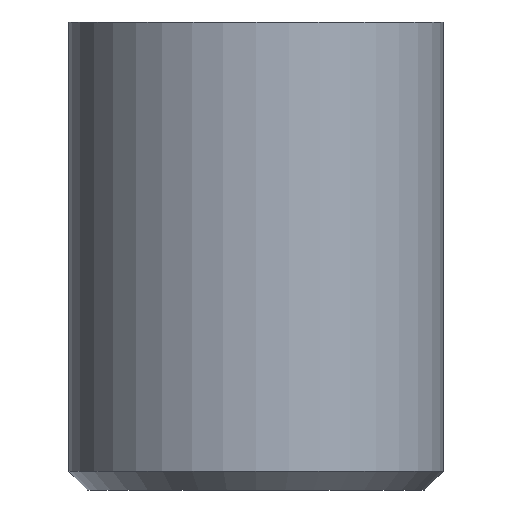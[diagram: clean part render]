
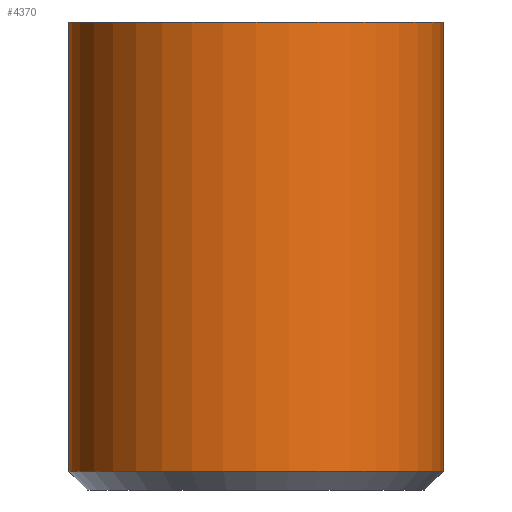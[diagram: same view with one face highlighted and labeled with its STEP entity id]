
A CAD part, front view. The second image highlights one B-rep face of the part: STEP entity #4370.
In plain terms, the highlighted cylindrical face has radius 8 mm (diameter 16 mm), a full revolution.
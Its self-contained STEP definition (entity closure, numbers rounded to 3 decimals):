
#526=CYLINDRICAL_SURFACE('',#4529,8.);
#758=FACE_OUTER_BOUND('',#1006,.T.);
#1006=EDGE_LOOP('',(#4122,#4123,#4124,#4125));
#1354=LINE('',#8749,#1697);
#1697=VECTOR('',#5160,8.);
#1711=CIRCLE('',#4419,8.);
#1740=CIRCLE('',#4527,8.);
#1778=VERTEX_POINT('',#5274);
#2175=VERTEX_POINT('',#8743);
#2226=EDGE_CURVE('',#1778,#1778,#1711,.T.);
#2825=EDGE_CURVE('',#2175,#2175,#1740,.T.);
#2828=EDGE_CURVE('',#1778,#2175,#1354,.T.);
#4122=ORIENTED_EDGE('',*,*,#2226,.F.);
#4123=ORIENTED_EDGE('',*,*,#2828,.T.);
#4124=ORIENTED_EDGE('',*,*,#2825,.F.);
#4125=ORIENTED_EDGE('',*,*,#2828,.F.);
#4370=ADVANCED_FACE('',(#758),#526,.T.);
#4419=AXIS2_PLACEMENT_3D('',#5275,#4633,#4634);
#4527=AXIS2_PLACEMENT_3D('',#8744,#5153,#5154);
#4529=AXIS2_PLACEMENT_3D('',#8748,#5158,#5159);
#4633=DIRECTION('center_axis',(0.,0.,1.));
#4634=DIRECTION('ref_axis',(1.,0.,0.));
#5153=DIRECTION('center_axis',(0.,0.,-1.));
#5154=DIRECTION('ref_axis',(1.,0.,0.));
#5158=DIRECTION('center_axis',(0.,0.,1.));
#5159=DIRECTION('ref_axis',(1.,0.,0.));
#5160=DIRECTION('',(0.,0.,-1.));
#5274=CARTESIAN_POINT('',(-8.,0.,20.));
#5275=CARTESIAN_POINT('Origin',(0.,0.,20.));
#8743=CARTESIAN_POINT('',(-8.,0.,0.8));
#8744=CARTESIAN_POINT('Origin',(0.,0.,0.8));
#8748=CARTESIAN_POINT('Origin',(0.,0.,0.));
#8749=CARTESIAN_POINT('',(-8.,0.,0.));
